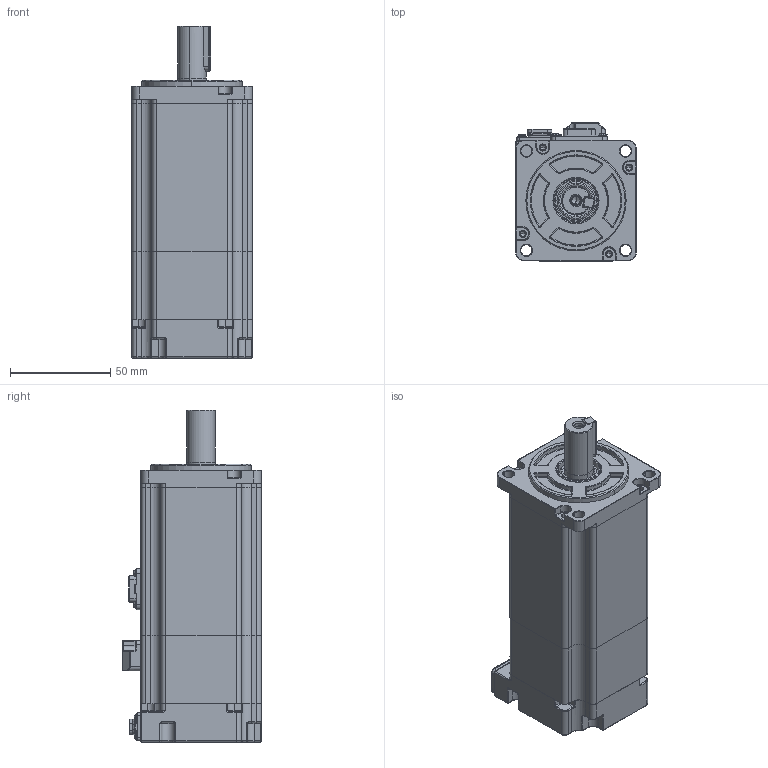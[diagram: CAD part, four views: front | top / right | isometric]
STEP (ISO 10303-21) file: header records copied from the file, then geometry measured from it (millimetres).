
FILE_DESCRIPTION (( 'STEP AP214' ), '1' );
FILE_NAME ('400W ÖÐ¹ßÁ¿ ´øÉ²³µ.STEP', '2021-09-15T12:05:12', ( '' ), ( '' ), 'SwSTEP 2.0', 'SolidWorks 2014', '' );
FILE_SCHEMA (( 'AUTOMOTIVE_DESIGN' ));
Length unit declared in the file: millimetre
Products named in the file (13): 60-80蚳蚚雄薯脣釱-sc-mc6p-ac-goubanchazuo_1; 蚐猾 D00B999YF2-TC 15-22-5_1; 瑩^400W笢嫦講萇儂_1; 60_400W笢嫦講儂褲_1; 隅赽_1; 60#配38铁芯中惯量刹车轴_1; 400W 笢嫦講 湍价陬; 价陬綴傷裔_60價釱_1; SC40陔晤鎢ん瑤脣釱sc-mc7p-a6-zhichuxianchazuo_1; 60陔晤鎢ん綴欶-201126_1; 价陬堤盄揤盄裔_1; ヶ傷裔_60價釱-201126_1; 蛌赽_1
Assembly tree (12 placements, depth 3):
  400W 笢嫦講 湍价陬
    蛌赽_1
      60#配38铁芯中惯量刹车轴_1
    隅赽_1
      ヶ傷裔_60價釱-201126_1
      60_400W笢嫦講儂褲_1
    60-80蚳蚚雄薯脣釱-sc-mc6p-ac-goubanchazuo_1
    60陔晤鎢ん綴欶-201126_1
    SC40陔晤鎢ん瑤脣釱sc-mc7p-a6-zhichuxianchazuo_1
    瑩^400W笢嫦講萇儂_1
    蚐猾 D00B999YF2-TC 15-22-5_1
    价陬綴傷裔_60價釱_1
    价陬堤盄揤盄裔_1
Bounding box: 60 x 69 x 165.5 mm (x, y, z)
Volume: 157769.1 mm3; surface area: 94333 mm2
Topology: 19 solids, 19 shells, 3637 faces, 9210 edges, 5664 vertices
Faces by surface type: plane 1696, cylinder 1258, bspline 324, cone 179, torus 146, sphere 34
Entity records: 174747 total; most frequent: CARTESIAN_POINT 48659, ORIENTED_EDGE 18206, DIRECTION 17286, EDGE_CURVE 9103, AXIS2_PLACEMENT_3D 5860, VERTEX_POINT 5660, VECTOR 5566, LINE 5566
